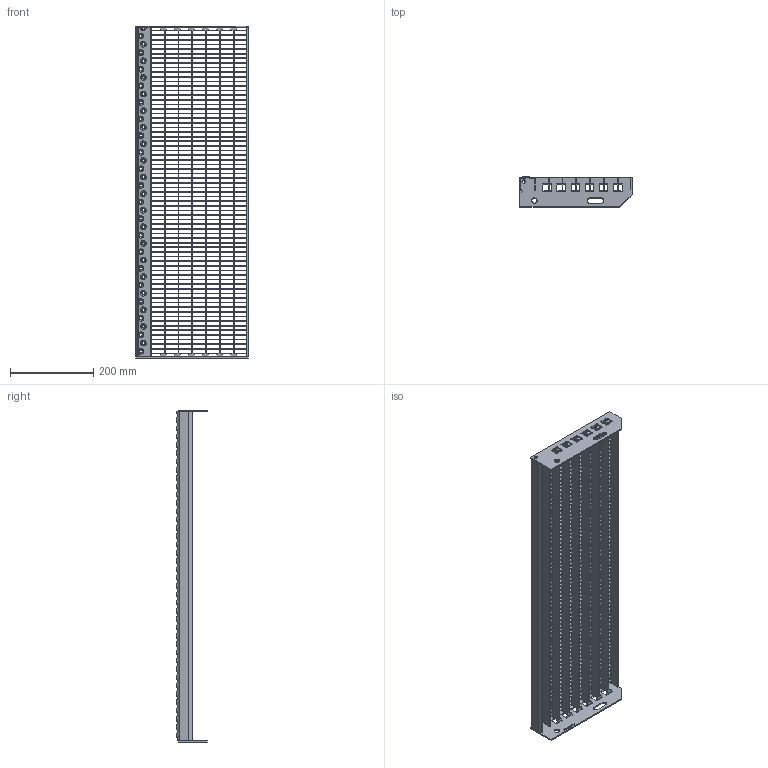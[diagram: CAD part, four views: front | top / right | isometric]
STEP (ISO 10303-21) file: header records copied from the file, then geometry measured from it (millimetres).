
FILE_DESCRIPTION(/* description */ ('','CAx-IF Rec.Pracs.---Representation and Presentation of Product Manufacturing Information (PMI)---3.8---2014-02-18'),/* implementation_level */ '2;1');
FILE_NAME(/* name */ 'C:\Users\phaverkotte\Desktop\Lager STEP\P-Stufen\PX42 230-33 11-2\PX42 230-33 11-2 800mm x 270mm.stp',/* time_stamp */ '2018-03-24T10:53:22+01:00',/* author */ ('phaverkotte'),/* organization */ (''),/* preprocessor_version */ 'ST-DEVELOPER v16.13',/* originating_system */ 'Autodesk Inventor 2018',/* authorisation */ '');
FILE_SCHEMA (('AP242_MANAGED_MODEL_BASED_3D_ENGINEERING_MIM_LF { 1 0 10303 442 1 1 4 }'));
Length unit declared in the file: millimetre
Products named in the file (8): Schodišťový stupeň přím
ý lisovaný; Seitenplatte ausgeklinkt links; Seitenplatte 240 ausgeklinkt extern rechts; Schod nášlap; P Rošt schodu; Querstab; P Nosný pás; Hinteres Flach
Assembly tree (83 placements, depth 3):
  Schodišťový stupeň přím
ý lisovaný
    Seitenplatte ausgeklinkt links
    Seitenplatte 240 ausgeklinkt extern rechts
    Schod nášlap
    P Rošt schodu
      Querstab  x71
      P Nosný pás  x7
      Hinteres Flach
Bounding box: 270.31 x 72.75 x 800 mm (x, y, z)
Volume: 832478.3 mm3; surface area: 938362 mm2
Topology: 82 solids, 82 shells, 14874 faces, 43969 edges, 29276 vertices
Faces by surface type: plane 14558, cylinder 132, cone 120, torus 40, bspline 24
Full cylindrical faces by diameter (mm): 8 x2, 13 x2
Entity records: 38763 total; most frequent: CARTESIAN_POINT 10216, ORIENTED_EDGE 5692, DIRECTION 5580, EDGE_CURVE 2846, LINE 2326, VECTOR 2326, VERTEX_POINT 1941, AXIS2_PLACEMENT_3D 1627
